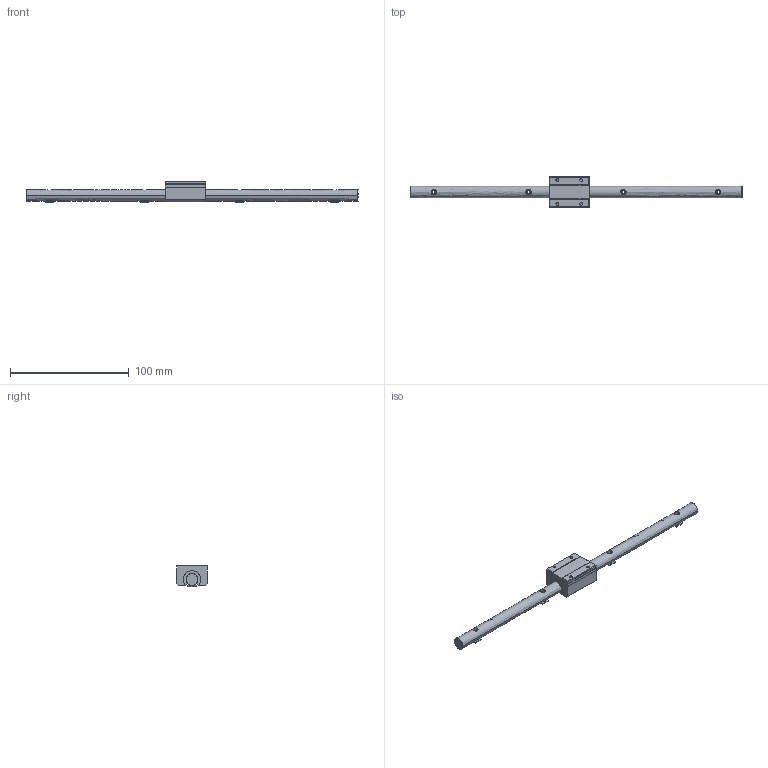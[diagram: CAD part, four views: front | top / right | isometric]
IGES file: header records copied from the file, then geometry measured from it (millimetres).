
Global section: file name: No Iges File Name specified; native system: AutoDesk Inventor R10; preprocessor: AutoDesk Inventor Iges Exporter R10; author: No Author specified; organization: No Organization specified; date: 20101221.093924; units: millimetre
Bounding box: 280 x 26 x 18 mm (x, y, z)
Surface area: 13909.9 mm2 (no closed solid volume)
Topology: 0 solids, 0 shells, 136 faces, 1190 edges, 1182 vertices
Faces by surface type: bspline 136
